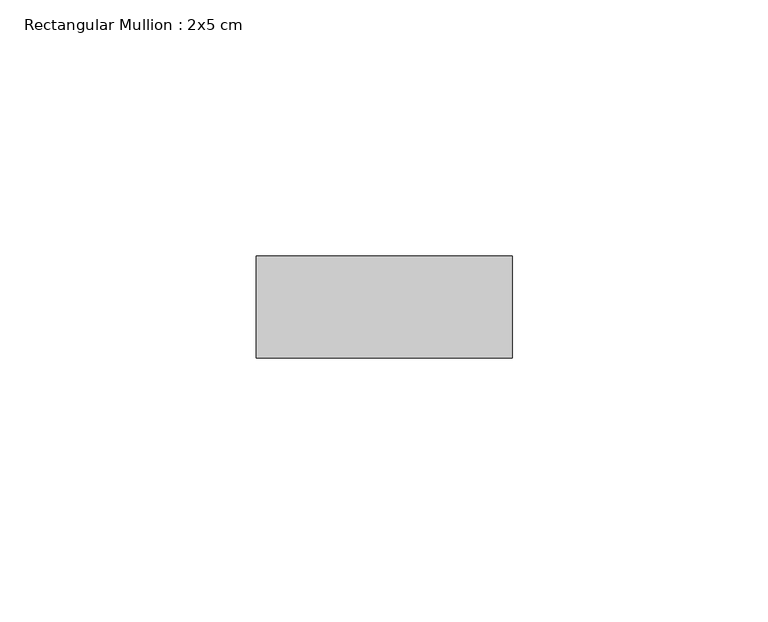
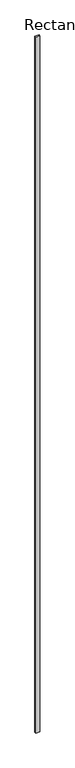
"""IFC4 building model written with IfcOpenShell, lengths in millimetres: member geometry, Rectangular Mullion : 2x5 cm."""

import ifcopenshell
import ifcopenshell.guid

model = None  # the IFC model being written
_history = None  # IfcOwnerHistory: only IFC2X3 demands one
_inside = {}  # id of a spatial element -> (the spatial element, [elements in it])
_under = {}  # id of a project, library or spatial element -> (it, [spatial elements below it])
_declared = {}  # id of a project -> (the project, [libraries it declares])
_typed = {}  # id of a type object -> (the type object, [elements of that type])
_made_of = {}  # id of a material, layer set ... -> (it, [elements and type objects made of it])


def new_model(schema):
    """Start an empty IFC model of exactly this schema.

    Asked for "IFC4X3", IfcOpenShell would pick the latest addendum, in which some entities
    have other attributes; the version numbers below select the first issue.
    IFC2X3 requires an IfcOwnerHistory on every rooted entity: one is made here for all.
    """
    global model, _history
    if schema == "IFC4X3":
        model = ifcopenshell.file(schema_version=(4, 3, 0, 0))
    else:
        model = ifcopenshell.file(schema=schema)
    _inside.clear()
    _under.clear()
    _declared.clear()
    _typed.clear()
    _made_of.clear()
    _history = None
    if model.schema == "IFC2X3":
        org = make("IfcOrganization", Name="unknown")
        user = make(
            "IfcPersonAndOrganization",
            ThePerson=make("IfcPerson", FamilyName="unknown"),
            TheOrganization=org,
        )
        app = make(
            "IfcApplication",
            ApplicationDeveloper=org,
            Version="unknown",
            ApplicationFullName="unknown",
            ApplicationIdentifier="unknown",
        )
        _history = make(
            "IfcOwnerHistory",
            OwningUser=user,
            OwningApplication=app,
            ChangeAction="ADDED",
            CreationDate=0,
        )
    return model


def make(cls, **values):
    """One entity of the class cls with the attributes given. An attribute that is None is left unset."""
    return model.create_entity(
        cls, **{name: value for name, value in values.items() if value is not None}
    )


def rooted(cls, **values):
    """An entity with a GlobalId (a new one), such as an element, a storey or a relation."""
    return make(cls, GlobalId=ifcopenshell.guid.new(), OwnerHistory=_history, **values)


def si_unit(unit_type, name, prefix=None):
    """IfcSIUnit, for example si_unit("LENGTHUNIT", "METRE", prefix="MILLI")."""
    return make("IfcSIUnit", UnitType=unit_type, Prefix=prefix, Name=name)


def assignment(units):
    """IfcUnitAssignment: the units of a project."""
    return None if units is None else make("IfcUnitAssignment", Units=units)


def point(xyz):
    """IfcCartesianPoint."""
    return None if xyz is None else make("IfcCartesianPoint", Coordinates=xyz)


def direction(xyz):
    """IfcDirection."""
    return None if xyz is None else make("IfcDirection", DirectionRatios=xyz)


def frame(location, z_axis=None, x_axis=None):
    """IfcAxis2Placement3D, a coordinate frame: its origin and axes. An axis left out is left unset."""
    return make(
        "IfcAxis2Placement3D",
        Location=point(location),
        Axis=direction(z_axis),
        RefDirection=direction(x_axis),
    )


def origin():
    """The frame at (0, 0, 0) with its axes left unset."""
    return frame((0.0, 0.0, 0.0))


def place(relative_to, where):
    """IfcLocalPlacement: puts the frame where relative to a parent placement (None: the world)."""
    return make(
        "IfcLocalPlacement", PlacementRelTo=relative_to, RelativePlacement=where
    )


def context(
    kind, dimensions, precision=None, world=None, true_north=None, identifier=None
):
    """IfcGeometricRepresentationContext, for example the 3D "Model" context."""
    return make(
        "IfcGeometricRepresentationContext",
        ContextIdentifier=identifier,
        ContextType=kind,
        CoordinateSpaceDimension=dimensions,
        Precision=precision,
        WorldCoordinateSystem=world,
        TrueNorth=true_north,
    )


def project(units=None, contexts=None):
    """IfcProject with its units and contexts."""
    return rooted(
        "IfcProject",
        Name="project",
        RepresentationContexts=contexts,
        UnitsInContext=assignment(units),
    )


def spatial(cls, under=None, at=None, **own):
    """A site, building, storey or space (cls), placed at a placement, below another one or the project."""
    s = rooted(cls, ObjectPlacement=at, **own)
    if under is not None:
        _under.setdefault(under.id(), (under, []))[1].append(s)
    return s


def polyline(points):
    """IfcPolyline through the points."""
    return make("IfcPolyline", Points=[point(p) for p in points])


def outline(outer, holes=None, kind="AREA"):
    """IfcArbitraryClosedProfileDef: a profile drawn as a closed curve; with holes, ...WithVoids."""
    if holes is None:
        return make("IfcArbitraryClosedProfileDef", ProfileType=kind, OuterCurve=outer)
    return make(
        "IfcArbitraryProfileDefWithVoids",
        ProfileType=kind,
        OuterCurve=outer,
        InnerCurves=holes,
    )


def extrude(swept, where, along, depth):
    """IfcExtrudedAreaSolid: the profile swept, set in the frame where, extruded along a direction by depth."""
    return make(
        "IfcExtrudedAreaSolid",
        SweptArea=swept,
        Position=where,
        ExtrudedDirection=direction(along),
        Depth=depth,
    )


def shape(context_of_items, identifier, shape_type, items):
    """IfcShapeRepresentation: the items that make up one representation, for example the "Body"."""
    return make(
        "IfcShapeRepresentation",
        ContextOfItems=context_of_items,
        RepresentationIdentifier=identifier,
        RepresentationType=shape_type,
        Items=items,
    )


def source(mapping_origin, context_of_items, identifier, shape_type, items):
    """IfcRepresentationMap: a shape defined once, which mapped items show again and again."""
    return make(
        "IfcRepresentationMap",
        MappingOrigin=mapping_origin,
        MappedRepresentation=shape(context_of_items, identifier, shape_type, items),
    )


def transform(
    local_origin,
    x_axis=None,
    y_axis=None,
    z_axis=None,
    scale=None,
    scale2=None,
    scale3=None,
    uniform=True,
):
    """IfcCartesianTransformationOperator3D, or its non-uniform kind. x_axis, y_axis, z_axis: its Axis1, 2, 3."""
    if uniform:
        return make(
            "IfcCartesianTransformationOperator3D",
            Axis1=direction(x_axis),
            Axis2=direction(y_axis),
            LocalOrigin=point(local_origin),
            Scale=scale,
            Axis3=direction(z_axis),
        )
    return make(
        "IfcCartesianTransformationOperator3DnonUniform",
        Axis1=direction(x_axis),
        Axis2=direction(y_axis),
        LocalOrigin=point(local_origin),
        Scale=scale,
        Axis3=direction(z_axis),
        Scale2=scale2,
        Scale3=scale3,
    )


def mapped(mapping_source, mapping_target):
    """IfcMappedItem: shows the shape of a source again, moved by a transform."""
    return make(
        "IfcMappedItem", MappingSource=mapping_source, MappingTarget=mapping_target
    )


def made_of(thing, what):
    """Note that an element or type object is made of a material, layer set ...; save() writes the relation."""
    if what is not None:
        _made_of.setdefault(what.id(), (what, []))[1].append(thing)
    return thing


def element(
    cls,
    number,
    at=None,
    inside=None,
    cuts=None,
    type_object=None,
    material=None,
    context=None,
    identifier="Body",
    shape_type=None,
    held_by="IfcProductDefinitionShape",
    body=None,
    shapes=None,
    **own,
):
    """One element of the class cls, such as IfcWall. Its Tag is "e" and its number.

    at: its placement. inside: the storey or other place that contains it. cuts: it is an
    opening in that element (IfcRelVoidsElement). A single representation is given by context,
    identifier, shape_type and body (its items); several are given by shapes. held_by: the class
    of the entity that holds the representations. save() writes the other relations.
    """
    e = rooted(cls, Tag="e%d" % number, ObjectPlacement=at, **own)
    if body is not None:
        shapes = [shape(context, identifier, shape_type, body)]
    if shapes is not None:
        e.Representation = make(held_by, Representations=shapes)
    if inside is not None:
        _inside.setdefault(inside.id(), (inside, []))[1].append(e)
    if cuts is not None:
        rooted(
            "IfcRelVoidsElement", RelatingBuildingElement=cuts, RelatedOpeningElement=e
        )
    if type_object is not None:
        _typed.setdefault(type_object.id(), (type_object, []))[1].append(e)
    return made_of(e, material)


def aggregate(whole, parts):
    """IfcRelAggregates: a whole, such as a stair, and the parts it consists of."""
    return rooted("IfcRelAggregates", RelatingObject=whole, RelatedObjects=parts)


def save(model, path):
    """Write the relations noted so far, then the file.

    IfcRelAggregates (storeys below a building ...), IfcRelContainedInSpatialStructure (elements
    in a storey), IfcRelDefinesByType, IfcRelAssociatesMaterial and IfcRelDeclares: one each for
    every whole, place, type object, material and project.
    """
    for whole, parts in _under.values():
        aggregate(whole, parts)
    for where, things in _inside.values():
        rooted(
            "IfcRelContainedInSpatialStructure",
            RelatedElements=things,
            RelatingStructure=where,
        )
    for kind, things in _typed.values():
        rooted("IfcRelDefinesByType", RelatedObjects=things, RelatingType=kind)
    for what, things in _made_of.values():
        rooted("IfcRelAssociatesMaterial", RelatedObjects=things, RelatingMaterial=what)
    for by, libraries in _declared.values():
        rooted("IfcRelDeclares", RelatingContext=by, RelatedDefinitions=libraries)
    model.write(path)


def rectangular_mullion_2x5_cm_94e83961(model_context):
    return source(origin(), model_context, "Body", "SweptSolid", [
        extrude(outline(polyline([(50.0, 20.0), (50.0, 0.0), (0.0, 0.0), (0.0, 20.0), (50.0, 20.0)])), frame((0.0, 0.0, -8940.3544857), z_axis=(0.0, 0.0, 1.0), x_axis=(1.0, 0.0, 0.0)), (0.0, 0.0, 1.0), 8940.3544857),
    ])


if __name__ == "__main__":
    model = new_model("IFC4")
    model_context = context("Model", 3, world=origin())
    ifc_project = project(units=[si_unit("LENGTHUNIT", "METRE", prefix="MILLI")], contexts=[model_context])
    site = spatial("IfcSite", under=ifc_project)
    building = spatial("IfcBuilding", under=site)
    placement = place(None, origin())
    rectangular_mullion_2x5_cm_shape = rectangular_mullion_2x5_cm_94e83961(model_context)
    element("IfcMember", 1, ObjectType="Rectangular Mullion : 2x5 cm", at=placement, inside=building, context=model_context, shape_type="MappedRepresentation", body=[
        mapped(rectangular_mullion_2x5_cm_shape, transform((0.0, 0.0, 0.0), x_axis=(1.0, 0.0, 0.0), y_axis=(0.0, 1.0, 0.0), z_axis=(0.0, 0.0, 1.0))),
    ])
    save(model, "model.ifc")
